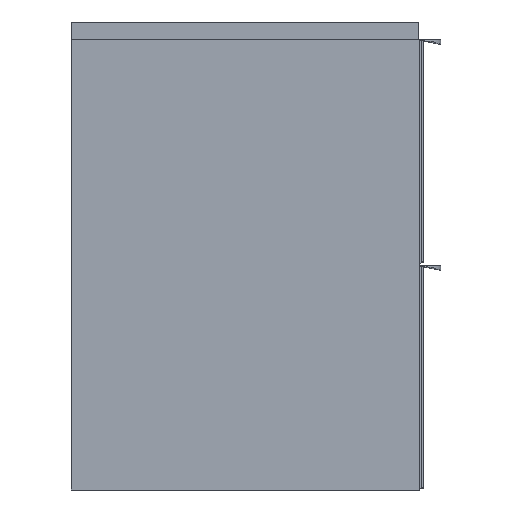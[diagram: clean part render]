
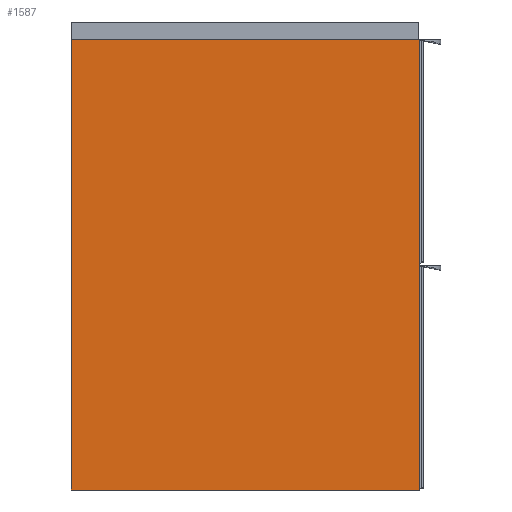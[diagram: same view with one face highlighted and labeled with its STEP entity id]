
A CAD part, left-side view. The second image highlights one B-rep face of the part: STEP entity #1587.
In plain terms, the highlighted planar face has unit normal (-1, 0, 0).
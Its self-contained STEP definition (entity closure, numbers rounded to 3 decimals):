
#1587=ADVANCED_FACE('',(#2861),#22369,.T.);
#2861=FACE_OUTER_BOUND('',#4231,.T.);
#4231=EDGE_LOOP('',(#9862,#9863,#9864,#9865));
#9862=ORIENTED_EDGE('',*,*,#14392,.F.);
#9863=ORIENTED_EDGE('',*,*,#14396,.F.);
#9864=ORIENTED_EDGE('',*,*,#14399,.F.);
#9865=ORIENTED_EDGE('',*,*,#14401,.F.);
#14392=EDGE_CURVE('',#20686,#20687,#18138,.T.);
#14396=EDGE_CURVE('',#20689,#20686,#18142,.T.);
#14399=EDGE_CURVE('',#20691,#20689,#18145,.T.);
#14401=EDGE_CURVE('',#20687,#20691,#18147,.T.);
#18138=B_SPLINE_CURVE_WITH_KNOTS('',1,(#37884,#37885),.UNSPECIFIED.,.F.,
 .F.,(2,2),(-500.,0.),.UNSPECIFIED.);
#18142=B_SPLINE_CURVE_WITH_KNOTS('',1,(#37892,#37893),.UNSPECIFIED.,.F.,
 .F.,(2,2),(-386.,0.),.UNSPECIFIED.);
#18145=B_SPLINE_CURVE_WITH_KNOTS('',1,(#37898,#37899),.UNSPECIFIED.,.F.,
 .F.,(2,2),(-500.,0.),.UNSPECIFIED.);
#18147=B_SPLINE_CURVE_WITH_KNOTS('',1,(#37902,#37903),.UNSPECIFIED.,.F.,
 .F.,(2,2),(-386.,0.),.UNSPECIFIED.);
#20686=VERTEX_POINT('',#37874);
#20687=VERTEX_POINT('',#37875);
#20689=VERTEX_POINT('',#37877);
#20691=VERTEX_POINT('',#37879);
#22369=PLANE('',#23913);
#23913=AXIS2_PLACEMENT_3D('',#37871,#24946,$);
#24946=DIRECTION('',(-1.,0.,0.));
#37871=CARTESIAN_POINT('',(1393.637,-3741.979,-40.828));
#37874=CARTESIAN_POINT('',(1393.637,-3703.259,-90.948));
#37875=CARTESIAN_POINT('',(1393.637,-3703.259,-590.948));
#37877=CARTESIAN_POINT('',(1393.637,-3317.259,-90.948));
#37879=CARTESIAN_POINT('',(1393.637,-3317.259,-590.948));
#37884=CARTESIAN_POINT('',(1393.637,-3703.259,-90.948));
#37885=CARTESIAN_POINT('',(1393.637,-3703.259,-590.948));
#37892=CARTESIAN_POINT('',(1393.637,-3317.259,-90.948));
#37893=CARTESIAN_POINT('',(1393.637,-3703.259,-90.948));
#37898=CARTESIAN_POINT('',(1393.637,-3317.259,-590.948));
#37899=CARTESIAN_POINT('',(1393.637,-3317.259,-90.948));
#37902=CARTESIAN_POINT('',(1393.637,-3703.259,-590.948));
#37903=CARTESIAN_POINT('',(1393.637,-3317.259,-590.948));
